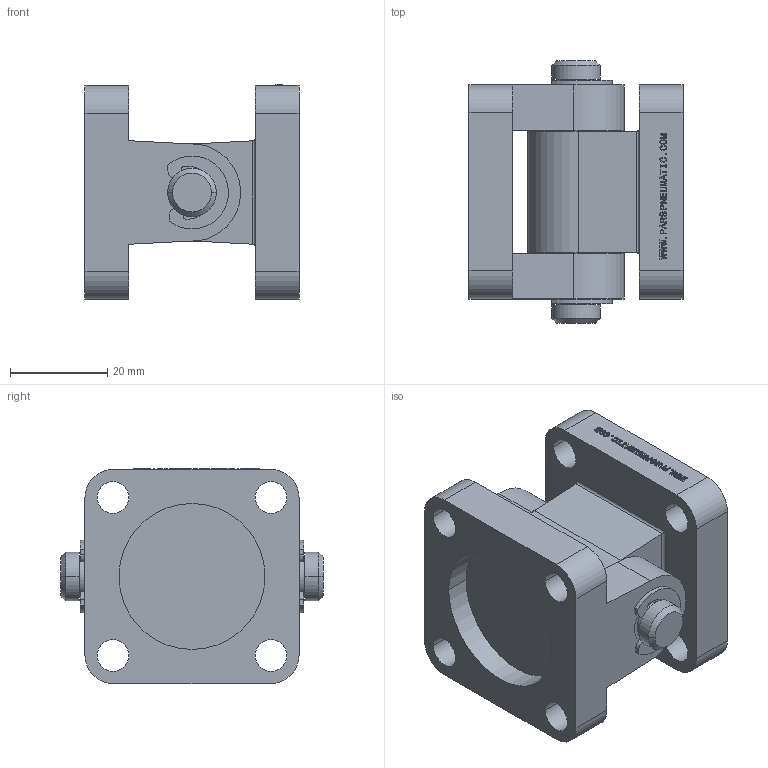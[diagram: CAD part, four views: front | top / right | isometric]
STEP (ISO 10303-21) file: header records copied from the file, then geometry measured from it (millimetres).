
FILE_DESCRIPTION(('CATIA V5 STEP Exchange'),'2;1');
FILE_NAME('D:\stp file for catalog\BAST-CAB\CAB 32.stp','2018-06-13T06:11:42+00:00',('none'),('none'),'CATIA Version 5-6 Release 2016','CATIA V5 STEP AP203','none');
FILE_SCHEMA(('CONFIG_CONTROL_DESIGN'));
Length unit declared in the file: millimetre
Products named in the file (1): PNC-CAB 32
Assembly tree (6 placements, depth 2):
  PNC-CAB 32
    #57
    #13997
    #15009
    #15032
    #15501
    #16255
Bounding box: 44 x 54 x 44.2 mm (x, y, z)
Volume: 44345 mm3; surface area: 19905.3 mm2
Topology: 5 solids, 5 shells, 559 faces, 1541 edges, 1026 vertices
Faces by surface type: plane 476, cylinder 79, cone 4
Entity records: 16986 total; most frequent: ORIENTED_EDGE 3082, CARTESIAN_POINT 3041, DIRECTION 2417, EDGE_CURVE 1541, VECTOR 1379, LINE 1379, VERTEX_POINT 1026, EDGE_LOOP 615
